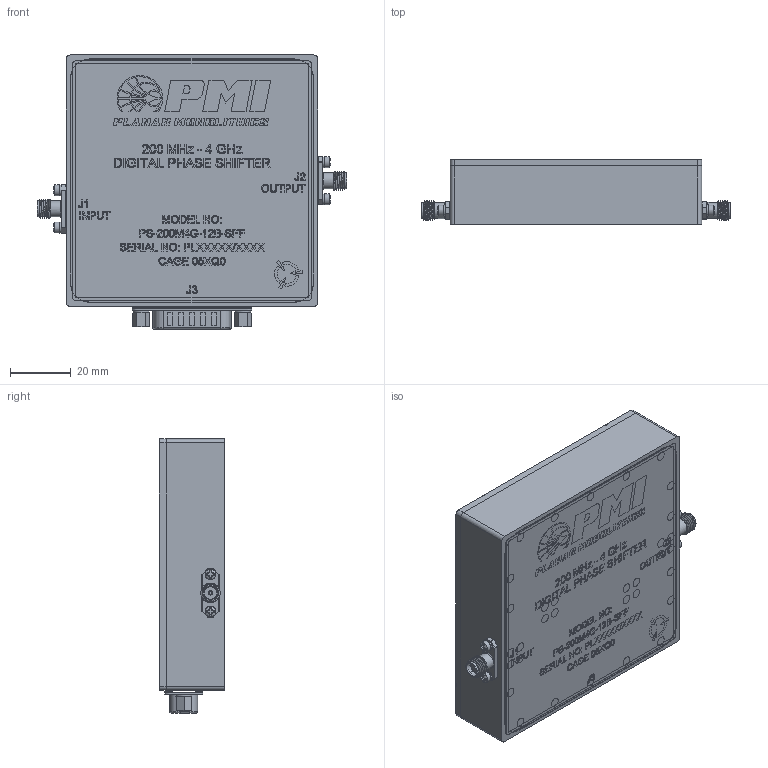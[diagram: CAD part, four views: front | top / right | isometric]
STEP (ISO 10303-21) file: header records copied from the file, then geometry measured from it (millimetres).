
FILE_DESCRIPTION (( 'STEP AP214' ), '1' );
FILE_NAME ('PS-200M4G-12B-SFF.STEP', '2026-03-19T12:55:29', ( '' ), ( '' ), 'SwSTEP 2.0', 'SolidWorks 2025', '' );
FILE_SCHEMA (( 'AUTOMOTIVE_DESIGN' ));
Length unit declared in the file: millimetre
Products named in the file (1): PS-200M4G-12B-SFF
Bounding box: 101.75 x 21.39 x 89.97 mm (x, y, z)
Surface area: 37524.5 mm2 (no closed solid volume)
Topology: 0 solids, 31 shells, 771 faces, 3289 edges, 2706 vertices
Faces by surface type: plane 540, cylinder 135, cone 44, torus 31, sphere 13, bspline 8
Full cylindrical faces by diameter (mm): 1.016 x16, 2.845 x2, 3.175 x4, 3.556 x4, 4.191 x2, 4.597 x2, 5.283 x4
Entity records: 51272 total; most frequent: CARTESIAN_POINT 16019, ORIENTED_EDGE 5814, DIRECTION 4718, EDGE_CURVE 3201, VERTEX_POINT 2688, VECTOR 1878, LINE 1878, AXIS2_PLACEMENT_3D 1420
